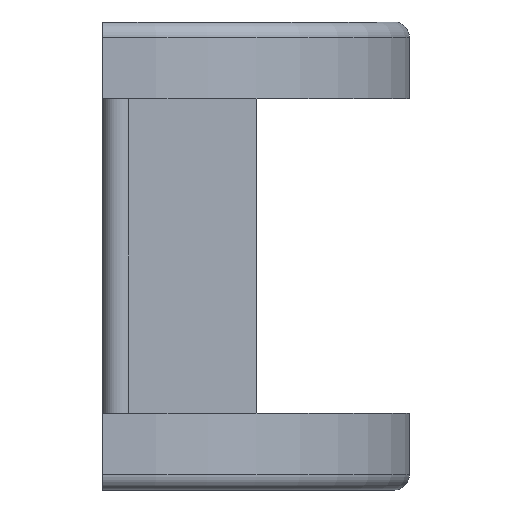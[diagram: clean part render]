
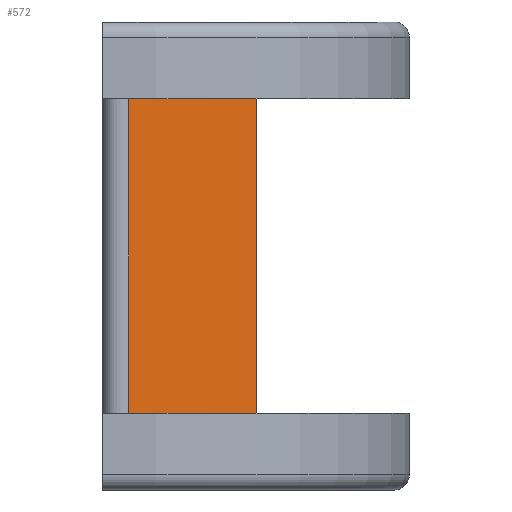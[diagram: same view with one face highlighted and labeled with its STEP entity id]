
A CAD part, front view. The second image highlights one B-rep face of the part: STEP entity #572.
In plain terms, the highlighted planar face has unit normal (0.707, -0.707, 0).
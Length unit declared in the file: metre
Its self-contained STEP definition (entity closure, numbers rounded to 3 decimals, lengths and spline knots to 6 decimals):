
#53=LINE('',#920,#103);
#64=LINE('',#949,#114);
#65=LINE('',#952,#115);
#66=LINE('',#953,#116);
#103=VECTOR('',#729,1.);
#114=VECTOR('',#756,1.);
#115=VECTOR('',#757,1.);
#116=VECTOR('',#758,1.);
#194=ORIENTED_EDGE('',*,*,#337,.F.);
#195=ORIENTED_EDGE('',*,*,#338,.T.);
#196=ORIENTED_EDGE('',*,*,#322,.T.);
#197=ORIENTED_EDGE('',*,*,#339,.F.);
#322=EDGE_CURVE('',#397,#396,#53,.T.);
#337=EDGE_CURVE('',#407,#408,#64,.T.);
#338=EDGE_CURVE('',#407,#397,#65,.T.);
#339=EDGE_CURVE('',#408,#396,#66,.T.);
#396=VERTEX_POINT('',#919);
#397=VERTEX_POINT('',#921);
#407=VERTEX_POINT('',#950);
#408=VERTEX_POINT('',#951);
#467=EDGE_LOOP('',(#194,#195,#196,#197));
#513=FACE_BOUND('',#467,.T.);
#554=PLANE('',#631);
#572=ADVANCED_FACE('',(#513),#554,.F.);
#631=AXIS2_PLACEMENT_3D('',#948,#754,#755);
#729=DIRECTION('',(0.707,0.707,0.));
#754=DIRECTION('',(-0.707,0.707,0.));
#755=DIRECTION('',(-0.707,-0.707,0.));
#756=DIRECTION('',(0.707,0.707,0.));
#757=DIRECTION('',(0.,0.,-1.));
#758=DIRECTION('',(0.,0.,-1.));
#919=CARTESIAN_POINT('',(0.,-0.0635,0.));
#920=CARTESIAN_POINT('',(-0.00635,-0.06985,0.));
#921=CARTESIAN_POINT('',(-0.010532,-0.074032,0.));
#948=CARTESIAN_POINT('',(-0.00635,-0.06985,0.026038));
#949=CARTESIAN_POINT('',(-0.00635,-0.06985,0.026038));
#950=CARTESIAN_POINT('',(-0.010532,-0.074032,0.026038));
#951=CARTESIAN_POINT('',(0.,-0.0635,0.026038));
#952=CARTESIAN_POINT('',(-0.010532,-0.074032,0.026038));
#953=CARTESIAN_POINT('',(0.,-0.0635,0.026038));
